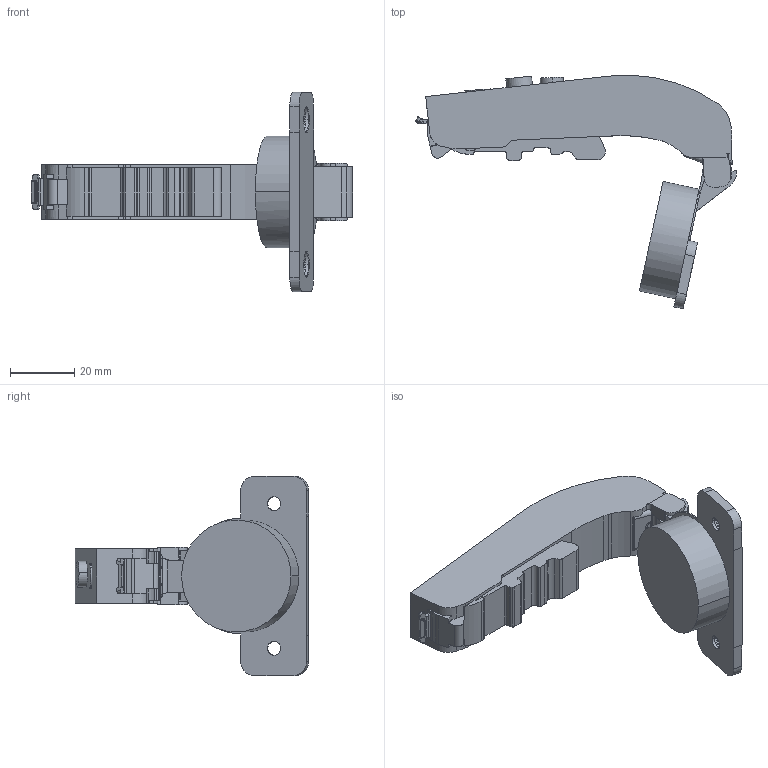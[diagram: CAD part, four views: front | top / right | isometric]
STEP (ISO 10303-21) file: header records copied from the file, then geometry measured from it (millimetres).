
FILE_DESCRIPTION (( 'STEP AP203' ), '1' );
FILE_NAME ('C81J875FAB DTC 3D OPEN.STEP', '2024-07-26T00:55:48', ( '微软用户' ), ( '微软中国' ), 'SwSTEP 2.0', 'SolidWorks 2021', '' );
FILE_SCHEMA (( 'CONFIG_CONTROL_DESIGN' ));
Length unit declared in the file: millimetre
Products named in the file (1): C81J875FAB DTC 3D OPEN
Bounding box: 99.82 x 72.58 x 62 mm (x, y, z)
Volume: 48787.6 mm3; surface area: 14120.3 mm2
Topology: 1 solids, 2 shells, 329 faces, 945 edges, 623 vertices
Faces by surface type: cylinder 144, plane 138, torus 26, bspline 15, cone 6
Entity records: 11383 total; most frequent: CARTESIAN_POINT 2704, ORIENTED_EDGE 1886, DIRECTION 1777, EDGE_CURVE 943, AXIS2_PLACEMENT_3D 643, VERTEX_POINT 623, VECTOR 491, LINE 491
